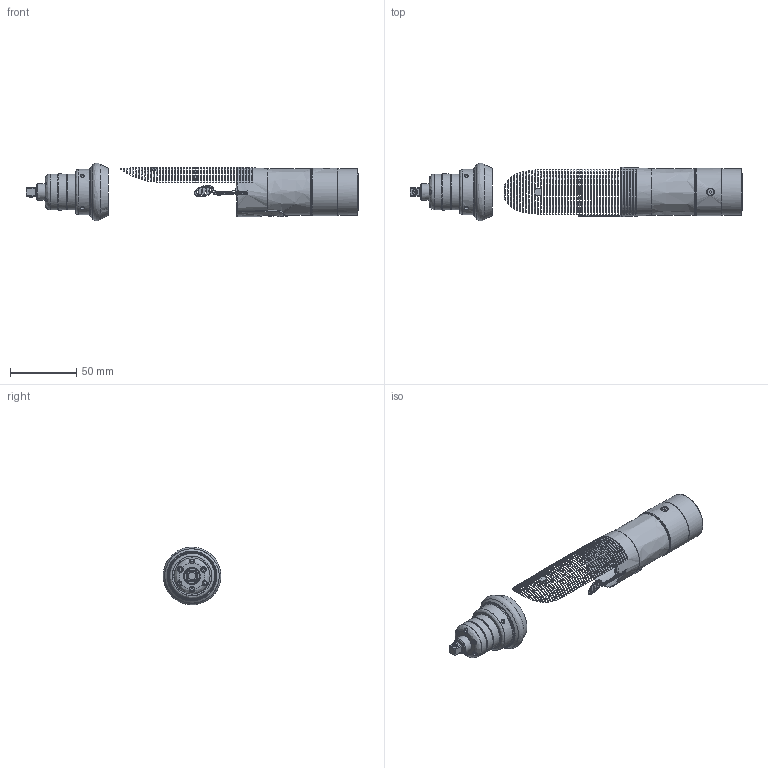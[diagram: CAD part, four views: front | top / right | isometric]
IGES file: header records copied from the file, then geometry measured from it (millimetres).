
Global section: file name: G:\Eng_Shared\PF\SURF MODELS\QE-QM\QE\QE2\Push to Start\16609869_A.igs; native system: NX V4.0; preprocessor: UGS NX IGES V4.0; date: 20090218.105157; units: millimetre
Bounding box: 249.79 x 43.45 x 43.49 mm (x, y, z)
Surface area: 28441.8 mm2 (no closed solid volume)
Topology: 0 solids, 0 shells, 893 faces, 5692 edges, 5496 vertices
Faces by surface type: bspline 893
